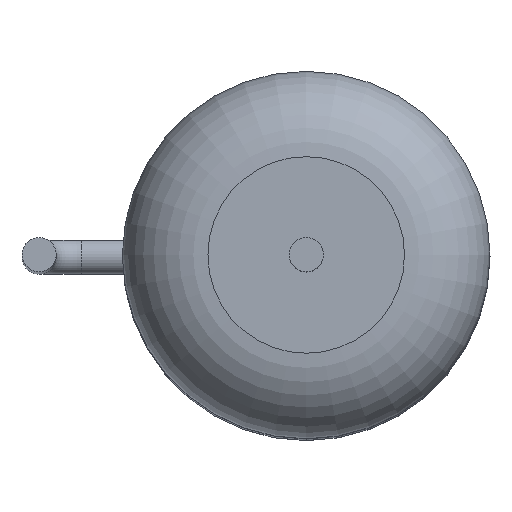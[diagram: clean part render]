
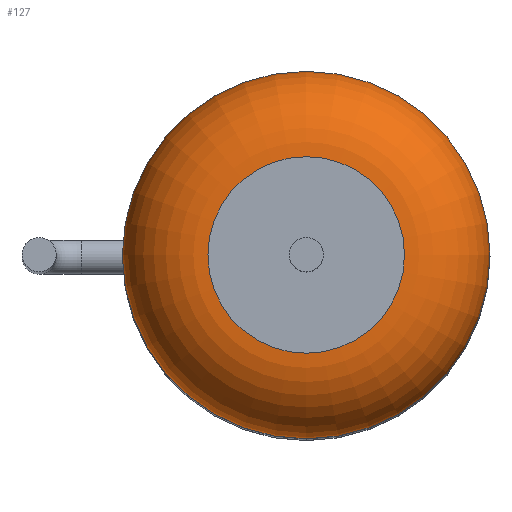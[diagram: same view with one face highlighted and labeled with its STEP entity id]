
A CAD part, top view. The second image highlights one B-rep face of the part: STEP entity #127.
In plain terms, the highlighted toroidal (fillet/blend) face has major radius 2.3 mm and minor radius 2 mm.
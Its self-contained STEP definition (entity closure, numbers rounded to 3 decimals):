
#127=ADVANCED_FACE('',(#298,#300),#302,.T.);
#298=FACE_OUTER_BOUND('',#299,.T.);
#299=EDGE_LOOP('',(#451));
#300=FACE_OUTER_BOUND('',#301,.T.);
#301=EDGE_LOOP('',(#452));
#302=TOROIDAL_SURFACE('',#303,2.3,2.);
#303=AXIS2_PLACEMENT_3D('',#304,#305,#306);
#304=CARTESIAN_POINT('',(0.,0.,12.));
#305=DIRECTION('',(0.,0.,-1.));
#306=DIRECTION('',(-1.,0.,0.));
#451=ORIENTED_EDGE('',*,*,#483,.T.);
#452=ORIENTED_EDGE('',*,*,#486,.F.);
#483=EDGE_CURVE('',#501,#501,#502,.T.);
#486=EDGE_CURVE('',#507,#507,#508,.T.);
#501=VERTEX_POINT('',#537);
#502=CIRCLE('',#538,2.3);
#507=VERTEX_POINT('',#552);
#508=CIRCLE('',#553,4.3);
#537=CARTESIAN_POINT('',(-2.3,0.,14.));
#538=AXIS2_PLACEMENT_3D('',#539,#540,#541);
#539=CARTESIAN_POINT('',(0.,0.,14.));
#540=DIRECTION('',(0.,0.,-1.));
#541=DIRECTION('',(-1.,0.,0.));
#552=CARTESIAN_POINT('',(-4.3,0.,12.));
#553=AXIS2_PLACEMENT_3D('',#554,#555,#556);
#554=CARTESIAN_POINT('',(0.,0.,12.));
#555=DIRECTION('',(0.,0.,-1.));
#556=DIRECTION('',(-1.,0.,0.));
